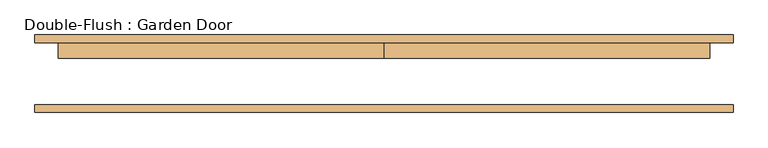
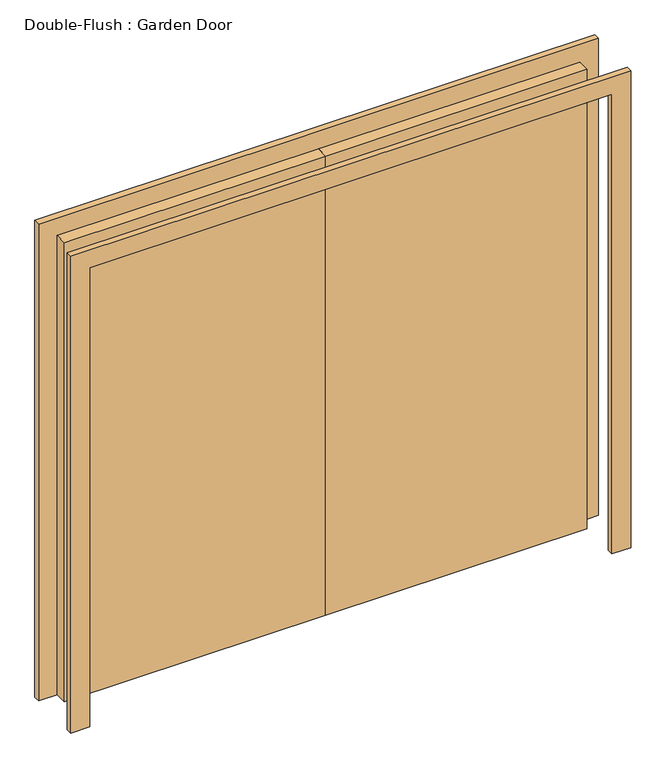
"""IFC4 building model written with IfcOpenShell, lengths in millimetres: door geometry, Double-Flush : Garden Door."""

from ifc_helpers import new_model, si_unit, frame, origin, origin_with_axes, place, context, project, spatial, polyline, outline, extrude, source, transform, mapped, element, save


def double_flush_garden_door_1ae05451(model_context):
    return source(origin(), model_context, "Body", "SweptSolid", [
        extrude(outline(polyline([(0.0, 101.6), (1066.8, 101.6), (1066.8, 50.8), (0.0, 50.8), (0.0, 101.6)])), origin_with_axes(), (0.0, 0.0, 1.0), 1981.2),
        extrude(outline(polyline([(-1066.8, 101.6), (0.0, 101.6), (0.0, 50.8), (-1066.8, 50.8), (-1066.8, 101.6)])), origin_with_axes(), (0.0, 0.0, 1.0), 1981.2),
        extrude(outline(polyline([(1981.2, -1066.8), (1981.2, 1066.8), (0.0, 1066.8), (0.0, 1143.0), (2057.4, 1143.0), (2057.4, -1143.0), (0.0, -1143.0), (0.0, -1066.8), (1981.2, -1066.8)])), frame((0.0, -127.0, 0.0), z_axis=(0.0, 1.0, 0.0), x_axis=(0.0, 0.0, 1.0)), (0.0, 0.0, 1.0), 25.4),
        extrude(outline(polyline([(1981.2, -1066.8), (1981.2, 1066.8), (0.0, 1066.8), (0.0, 1143.0), (2057.4, 1143.0), (2057.4, -1143.0), (0.0, -1143.0), (0.0, -1066.8), (1981.2, -1066.8)])), frame((0.0, 101.6, 0.0), z_axis=(0.0, 1.0, 0.0), x_axis=(0.0, 0.0, 1.0)), (0.0, 0.0, 1.0), 25.4),
    ])


if __name__ == "__main__":
    model = new_model("IFC4")
    model_context = context("Model", 3, world=origin())
    ifc_project = project(units=[si_unit("LENGTHUNIT", "METRE", prefix="MILLI")], contexts=[model_context])
    site = spatial("IfcSite", under=ifc_project)
    building = spatial("IfcBuilding", under=site)
    placement = place(None, origin())
    double_flush_garden_door_shape = double_flush_garden_door_1ae05451(model_context)
    element("IfcDoor", 1, ObjectType="Double-Flush : Garden Door", at=placement, inside=building, context=model_context, shape_type="MappedRepresentation", body=[
        mapped(double_flush_garden_door_shape, transform((0.0, 0.0, 0.0), x_axis=(1.0, 0.0, 0.0), y_axis=(0.0, 1.0, 0.0), z_axis=(0.0, 0.0, 1.0))),
    ])
    save(model, "model.ifc")
